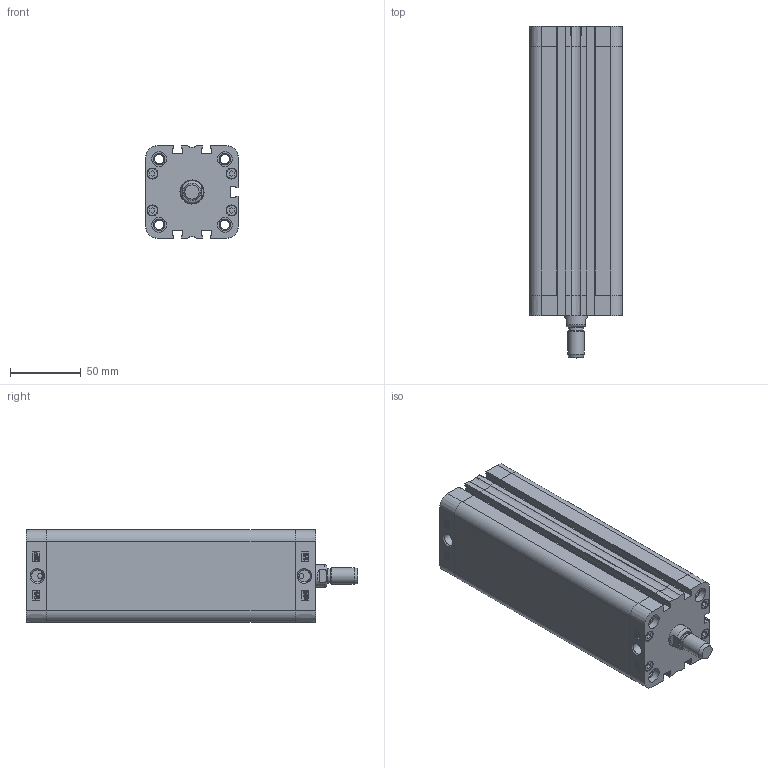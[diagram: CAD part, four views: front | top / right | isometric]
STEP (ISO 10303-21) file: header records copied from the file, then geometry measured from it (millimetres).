
FILE_DESCRIPTION((''),'2;1');
FILE_NAME('T:\Archivio Inventor\- CATALOGHI 2012\SERIE P - NUOVA\PDM\PDM050\PDM050.---.GS.M\PDM050.160.GS.M.stp','2013-02-01T12:22:08',('Administrator'),(''),'Autodesk Inventor 2012','Autodesk Inventor 2012','');
FILE_SCHEMA(('CONFIG_CONTROL_DESIGN'));
Length unit declared in the file: millimetre
Products named in the file (1): PDM050.160.GS.M
Bounding box: 65.5 x 235 x 65.5 mm (x, y, z)
Volume: 380981.3 mm3; surface area: 151987.3 mm2
Topology: 2 solids, 6 shells, 780 faces, 1860 edges, 1167 vertices
Faces by surface type: plane 335, bspline 196, cylinder 131, torus 56, cone 46, sphere 16
Full cylindrical faces by diameter (mm): 3.5 x2, 5.2 x4, 6.647 x8, 7.5 x8, 7.7 x8, 8.047 x4, 8.566 x2, 10 x1, 10.5 x8, 12 x2, 16 x1, 16.5 x1, 50 x1, 52.4 x1, 52.6 x1
Entity records: 25595 total; most frequent: CARTESIAN_POINT 8480, ORIENTED_EDGE 3488, DIRECTION 2866, EDGE_CURVE 1744, VERTEX_POINT 1148, AXIS2_PLACEMENT_3D 978, EDGE_LOOP 962, VECTOR 910
